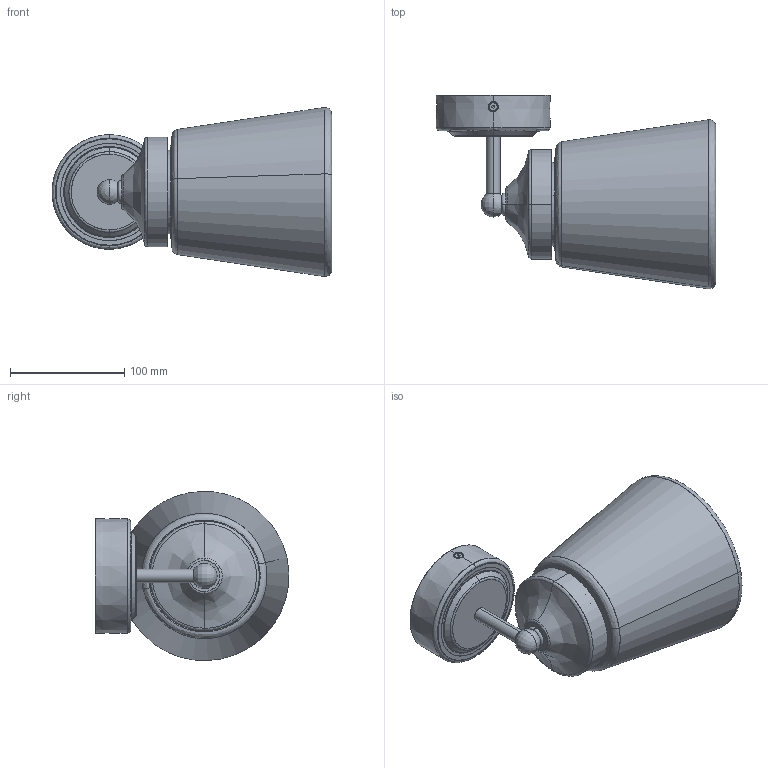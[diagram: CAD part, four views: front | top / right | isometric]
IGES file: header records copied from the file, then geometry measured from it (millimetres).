
Start section: SolidWorks IGES file using analytic representation for surfaces
Global section: file name: Z:\Modele 3D_WWW\_KOLEKCJE_WWW\BALI\BALI-9353-9354.IGS; native system: SolidWorks 2021; preprocessor: SolidWorks 2021; author: gabriela.tworek; date: 210819.111210; units: millimetre
Bounding box: 244.75 x 169.28 x 147.85 mm (x, y, z)
Surface area: 308021.4 mm2 (no closed solid volume)
Topology: 0 solids, 0 shells, 429 faces, 7410 edges, 7398 vertices
Faces by surface type: bspline 223, revolution 206
